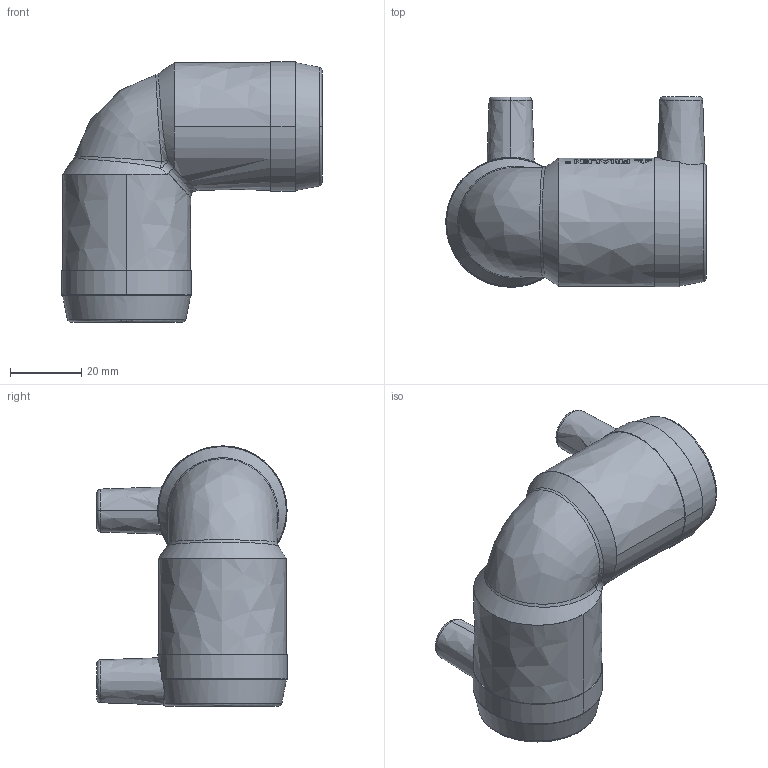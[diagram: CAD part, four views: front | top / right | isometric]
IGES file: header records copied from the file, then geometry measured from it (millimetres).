
Start section:  PTC IGES file: w90_d025_01.igs
Global section: file name: w90_d025_01.igs; native system: Pro/ENGINEER by Parametric Technology Corporation; preprocessor: 2011490; author: mtunjic; organization: Unknown; date: 20130812.094017; units: millimetre
Bounding box: 73.2 x 53.5 x 73.2 mm (x, y, z)
Surface area: 21551.8 mm2 (no closed solid volume)
Topology: 0 solids, 0 shells, 203 faces, 1028 edges, 1028 vertices
Faces by surface type: bspline 203
